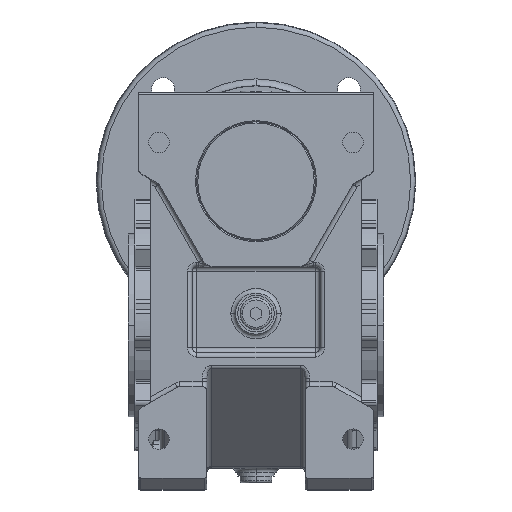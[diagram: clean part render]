
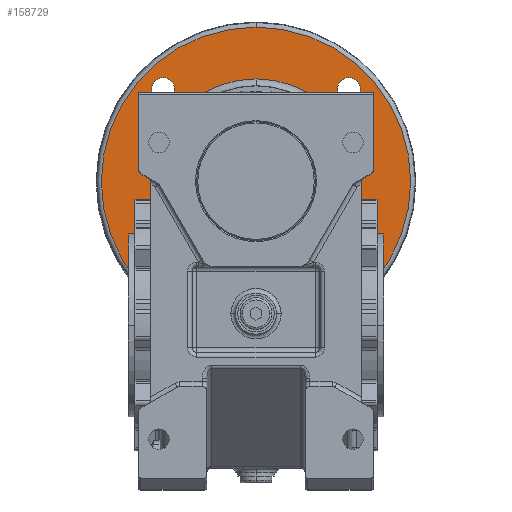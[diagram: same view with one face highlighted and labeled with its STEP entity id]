
A CAD part, top view. The second image highlights one B-rep face of the part: STEP entity #158729.
In plain terms, the highlighted planar face has unit normal (0, 0, 1).
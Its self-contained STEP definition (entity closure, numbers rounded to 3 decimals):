
#126748 = CARTESIAN_POINT ( 'NONE',  ( -45.659, -40.659, 10. ) ) ;
#126750 = CARTESIAN_POINT ( 'NONE',  ( -35.659, -40.659, 10. ) ) ;
#126752 = DIRECTION ( 'NONE',  ( 1., 0., 0. ) ) ;
#126754 = DIRECTION ( 'NONE',  ( 0., 0., -1. ) ) ;
#126756 = CARTESIAN_POINT ( 'NONE',  ( -40.659, -40.659, 10. ) ) ;
#126758 = AXIS2_PLACEMENT_3D ( 'NONE', #126756, #126754, #126752 ) ;
#126770 = CIRCLE ( 'NONE', #126758, 5. ) ;
#126963 = CARTESIAN_POINT ( 'NONE',  ( -45.659, 40.659, 10. ) ) ;
#126966 = CARTESIAN_POINT ( 'NONE',  ( -35.659, 40.659, 10. ) ) ;
#126968 = DIRECTION ( 'NONE',  ( 1., 0., 0. ) ) ;
#126970 = DIRECTION ( 'NONE',  ( 0., 0., -1. ) ) ;
#126972 = AXIS2_PLACEMENT_3D ( 'NONE', #126988, #126970, #126968 ) ;
#126974 = CIRCLE ( 'NONE', #126972, 5. ) ;
#126988 = CARTESIAN_POINT ( 'NONE',  ( -40.659, 40.659, 10. ) ) ;
#127035 = CARTESIAN_POINT ( 'NONE',  ( 35.659, -40.659, 10. ) ) ;
#127037 = CARTESIAN_POINT ( 'NONE',  ( 45.659, -40.659, 10. ) ) ;
#127039 = DIRECTION ( 'NONE',  ( 1., 0., 0. ) ) ;
#127041 = DIRECTION ( 'NONE',  ( 0., 0., -1. ) ) ;
#127042 = AXIS2_PLACEMENT_3D ( 'NONE', #127057, #127041, #127039 ) ;
#127044 = CIRCLE ( 'NONE', #127042, 5. ) ;
#127057 = CARTESIAN_POINT ( 'NONE',  ( 40.659, -40.659, 10. ) ) ;
#127338 = CARTESIAN_POINT ( 'NONE',  ( 35.659, 40.659, 10. ) ) ;
#127341 = CARTESIAN_POINT ( 'NONE',  ( 45.659, 40.659, 10. ) ) ;
#127343 = DIRECTION ( 'NONE',  ( 1., 0., 0. ) ) ;
#127345 = DIRECTION ( 'NONE',  ( 0., 0., -1. ) ) ;
#127347 = CARTESIAN_POINT ( 'NONE',  ( 40.659, 40.659, 10. ) ) ;
#127348 = AXIS2_PLACEMENT_3D ( 'NONE', #127347, #127345, #127343 ) ;
#127350 = CIRCLE ( 'NONE', #127348, 5. ) ;
#128741 = CARTESIAN_POINT ( 'NONE',  ( 0., 0., 10. ) ) ;
#128742 = CIRCLE ( 'NONE', #128887, 67.719 ) ;
#128880 = CARTESIAN_POINT ( 'NONE',  ( 67.719, 0., 10. ) ) ;
#128882 = CARTESIAN_POINT ( 'NONE',  ( -67.719, 0., 10. ) ) ;
#128883 = DIRECTION ( 'NONE',  ( -1., 0., 0. ) ) ;
#128885 = DIRECTION ( 'NONE',  ( 0., 0., -1. ) ) ;
#128887 = AXIS2_PLACEMENT_3D ( 'NONE', #128741, #128885, #128883 ) ;
#128959 = CARTESIAN_POINT ( 'NONE',  ( -45.072, 0., 10. ) ) ;
#128964 = CARTESIAN_POINT ( 'NONE',  ( 45.072, 0., 10. ) ) ;
#128967 = DIRECTION ( 'NONE',  ( -1., 0., 0. ) ) ;
#128969 = DIRECTION ( 'NONE',  ( 0., 0., -1. ) ) ;
#128970 = CARTESIAN_POINT ( 'NONE',  ( 0., 0., 10. ) ) ;
#128973 = AXIS2_PLACEMENT_3D ( 'NONE', #128970, #128969, #128967 ) ;
#128975 = CIRCLE ( 'NONE', #128973, 45.072 ) ;
#130298 = DIRECTION ( 'NONE',  ( 1., 0., 0. ) ) ;
#130300 = DIRECTION ( 'NONE',  ( 0., 0., -1. ) ) ;
#130301 = CARTESIAN_POINT ( 'NONE',  ( 40.659, -40.659, 10. ) ) ;
#130303 = AXIS2_PLACEMENT_3D ( 'NONE', #130301, #130300, #130298 ) ;
#130305 = CIRCLE ( 'NONE', #130303, 5. ) ;
#130406 = DIRECTION ( 'NONE',  ( -1., 0., 0. ) ) ;
#130408 = DIRECTION ( 'NONE',  ( 0., 0., -1. ) ) ;
#130410 = CARTESIAN_POINT ( 'NONE',  ( 0., 0., 10. ) ) ;
#130412 = AXIS2_PLACEMENT_3D ( 'NONE', #130410, #130408, #130406 ) ;
#130413 = CIRCLE ( 'NONE', #130412, 67.719 ) ;
#130446 = DIRECTION ( 'NONE',  ( 1., 0., 0. ) ) ;
#130448 = DIRECTION ( 'NONE',  ( 0., 0., -1. ) ) ;
#130449 = CARTESIAN_POINT ( 'NONE',  ( -40.659, 40.659, 10. ) ) ;
#130451 = AXIS2_PLACEMENT_3D ( 'NONE', #130449, #130448, #130446 ) ;
#130452 = CIRCLE ( 'NONE', #130451, 5. ) ;
#130527 = PLANE ( 'NONE',  #130670 ) ;
#130529 = FACE_OUTER_BOUND ( 'NONE', #158722, .T. ) ;
#130531 = FACE_BOUND ( 'NONE', #158718, .T. ) ;
#130533 = FACE_BOUND ( 'NONE', #158714, .T. ) ;
#130535 = FACE_BOUND ( 'NONE', #158662, .T. ) ;
#130537 = FACE_BOUND ( 'NONE', #158658, .T. ) ;
#130538 = FACE_BOUND ( 'NONE', #158730, .T. ) ;
#130555 = DIRECTION ( 'NONE',  ( -1., 0., 0. ) ) ;
#130557 = DIRECTION ( 'NONE',  ( 0., 0., -1. ) ) ;
#130558 = CARTESIAN_POINT ( 'NONE',  ( 0., 0., 10. ) ) ;
#130559 = AXIS2_PLACEMENT_3D ( 'NONE', #130558, #130557, #130555 ) ;
#130560 = CIRCLE ( 'NONE', #130559, 45.072 ) ;
#130562 = DIRECTION ( 'NONE',  ( 1., 0., 0. ) ) ;
#130564 = DIRECTION ( 'NONE',  ( 0., 0., -1. ) ) ;
#130565 = CARTESIAN_POINT ( 'NONE',  ( 40.659, 40.659, 10. ) ) ;
#130566 = AXIS2_PLACEMENT_3D ( 'NONE', #130565, #130564, #130562 ) ;
#130568 = CIRCLE ( 'NONE', #130566, 5. ) ;
#130656 = DIRECTION ( 'NONE',  ( 1., 0., 0. ) ) ;
#130657 = DIRECTION ( 'NONE',  ( 0., 0., -1. ) ) ;
#130658 = CARTESIAN_POINT ( 'NONE',  ( -40.659, -40.659, 10. ) ) ;
#130660 = AXIS2_PLACEMENT_3D ( 'NONE', #130658, #130657, #130656 ) ;
#130661 = CIRCLE ( 'NONE', #130660, 5. ) ;
#130666 = DIRECTION ( 'NONE',  ( 1., 0., 0. ) ) ;
#130667 = DIRECTION ( 'NONE',  ( 0., 0., 1. ) ) ;
#130669 = CARTESIAN_POINT ( 'NONE',  ( 0., 67.719, 10. ) ) ;
#130670 = AXIS2_PLACEMENT_3D ( 'NONE', #130669, #130667, #130666 ) ;
#157953 = EDGE_CURVE ( 'NONE', #157954, #157955, #126770, .T. ) ;
#157954 = VERTEX_POINT ( 'NONE', #126750 ) ;
#157955 = VERTEX_POINT ( 'NONE', #126748 ) ;
#158004 = EDGE_CURVE ( 'NONE', #158005, #158006, #126974, .T. ) ;
#158005 = VERTEX_POINT ( 'NONE', #126966 ) ;
#158006 = VERTEX_POINT ( 'NONE', #126963 ) ;
#158020 = EDGE_CURVE ( 'NONE', #158021, #158022, #127044, .T. ) ;
#158021 = VERTEX_POINT ( 'NONE', #127037 ) ;
#158022 = VERTEX_POINT ( 'NONE', #127035 ) ;
#158067 = EDGE_CURVE ( 'NONE', #158068, #158069, #127350, .T. ) ;
#158068 = VERTEX_POINT ( 'NONE', #127341 ) ;
#158069 = VERTEX_POINT ( 'NONE', #127338 ) ;
#158364 = EDGE_CURVE ( 'NONE', #158365, #158366, #128742, .T. ) ;
#158365 = VERTEX_POINT ( 'NONE', #128882 ) ;
#158366 = VERTEX_POINT ( 'NONE', #128880 ) ;
#158384 = EDGE_CURVE ( 'NONE', #158385, #158386, #128975, .T. ) ;
#158385 = VERTEX_POINT ( 'NONE', #128964 ) ;
#158386 = VERTEX_POINT ( 'NONE', #128959 ) ;
#158657 = ORIENTED_EDGE ( 'NONE', *, *, #157953, .T. ) ;
#158658 = EDGE_LOOP ( 'NONE', ( #158659, #158661 ) ) ;
#158659 = ORIENTED_EDGE ( 'NONE', *, *, #158660, .T. ) ;
#158660 = EDGE_CURVE ( 'NONE', #158022, #158021, #130305, .T. ) ;
#158661 = ORIENTED_EDGE ( 'NONE', *, *, #158020, .T. ) ;
#158662 = EDGE_LOOP ( 'NONE', ( #158663, #158665 ) ) ;
#158663 = ORIENTED_EDGE ( 'NONE', *, *, #158664, .T. ) ;
#158664 = EDGE_CURVE ( 'NONE', #158006, #158005, #130452, .T. ) ;
#158665 = ORIENTED_EDGE ( 'NONE', *, *, #158004, .T. ) ;
#158675 = EDGE_CURVE ( 'NONE', #158366, #158365, #130413, .T. ) ;
#158714 = EDGE_LOOP ( 'NONE', ( #158715, #158717 ) ) ;
#158715 = ORIENTED_EDGE ( 'NONE', *, *, #158716, .T. ) ;
#158716 = EDGE_CURVE ( 'NONE', #158069, #158068, #130568, .T. ) ;
#158717 = ORIENTED_EDGE ( 'NONE', *, *, #158067, .T. ) ;
#158718 = EDGE_LOOP ( 'NONE', ( #158719, #158721 ) ) ;
#158719 = ORIENTED_EDGE ( 'NONE', *, *, #158720, .T. ) ;
#158720 = EDGE_CURVE ( 'NONE', #158386, #158385, #130560, .T. ) ;
#158721 = ORIENTED_EDGE ( 'NONE', *, *, #158384, .T. ) ;
#158722 = EDGE_LOOP ( 'NONE', ( #158723, #158724 ) ) ;
#158723 = ORIENTED_EDGE ( 'NONE', *, *, #158364, .F. ) ;
#158724 = ORIENTED_EDGE ( 'NONE', *, *, #158675, .F. ) ;
#158729 = ADVANCED_FACE ( 'NONE', ( #130538, #130537, #130535, #130533, #130531, #130529 ), #130527, .T. ) ;
#158730 = EDGE_LOOP ( 'NONE', ( #158731, #158657 ) ) ;
#158731 = ORIENTED_EDGE ( 'NONE', *, *, #158732, .T. ) ;
#158732 = EDGE_CURVE ( 'NONE', #157955, #157954, #130661, .T. ) ;
